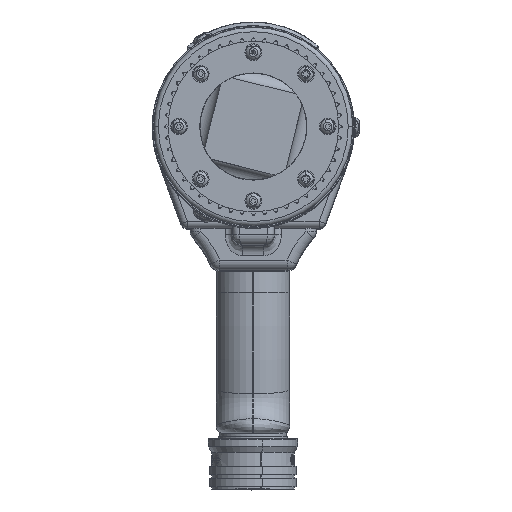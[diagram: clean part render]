
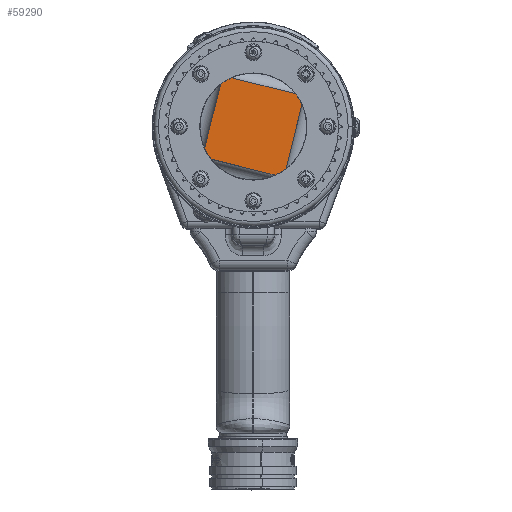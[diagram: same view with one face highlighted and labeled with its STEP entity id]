
A CAD part, top view. The second image highlights one B-rep face of the part: STEP entity #59290.
In plain terms, the highlighted planar face has unit normal (0, 0, 1).
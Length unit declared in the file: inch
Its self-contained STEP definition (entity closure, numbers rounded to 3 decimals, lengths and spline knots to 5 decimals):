
#808 = CARTESIAN_POINT ( 'NONE',  ( 0.72513, -0.18149, 2.89 ) ) ;
#3412 = VERTEX_POINT ( 'NONE', #88395 ) ;
#3620 = DIRECTION ( 'NONE',  ( 0., 0., -1. ) ) ;
#4511 = PLANE ( 'NONE',  #64877 ) ;
#4696 = CARTESIAN_POINT ( 'NONE',  ( 0.58278, -0.75024, 2.89 ) ) ;
#6022 = DIRECTION ( 'NONE',  ( -0.243, -0.97, 0. ) ) ;
#8869 = AXIS2_PLACEMENT_3D ( 'NONE', #45755, #3620, #52741 ) ;
#9750 = DIRECTION ( 'NONE',  ( 0.97, -0.243, 0. ) ) ;
#10610 = CIRCLE ( 'NONE', #42536, 0.95 ) ;
#11819 = CARTESIAN_POINT ( 'NONE',  ( 0.38726, -0.86748, 2.89 ) ) ;
#13309 = VECTOR ( 'NONE', #28782, 39.37008 ) ;
#15499 = LINE ( 'NONE', #808, #13309 ) ;
#16318 = EDGE_CURVE ( 'NONE', #17107, #51661, #52478, .T. ) ;
#16796 = CARTESIAN_POINT ( 'NONE',  ( -0.75024, -0.58278, 2.89 ) ) ;
#17107 = VERTEX_POINT ( 'NONE', #16796 ) ;
#18859 = CARTESIAN_POINT ( 'NONE',  ( 0., 0., 2.89 ) ) ;
#18938 = EDGE_CURVE ( 'NONE', #74873, #61169, #38465, .T. ) ;
#20394 = CIRCLE ( 'NONE', #88520, 0.95 ) ;
#25645 = FACE_OUTER_BOUND ( 'NONE', #60538, .T. ) ;
#25941 = DIRECTION ( 'NONE',  ( -0.243, -0.97, 0. ) ) ;
#28782 = DIRECTION ( 'NONE',  ( 0.243, 0.97, 0. ) ) ;
#30174 = EDGE_CURVE ( 'NONE', #74873, #70260, #20394, .T. ) ;
#31847 = CARTESIAN_POINT ( 'NONE',  ( -0.18149, -0.72513, 2.89 ) ) ;
#32015 = DIRECTION ( 'NONE',  ( -0.243, -0.97, 0. ) ) ;
#32396 = DIRECTION ( 'NONE',  ( -0.97, 0.243, 0. ) ) ;
#36161 = CARTESIAN_POINT ( 'NONE',  ( -0.38726, 0.86748, 2.89 ) ) ;
#38465 = LINE ( 'NONE', #60284, #44209 ) ;
#38597 = ORIENTED_EDGE ( 'NONE', *, *, #30174, .F. ) ;
#38749 = CARTESIAN_POINT ( 'NONE',  ( -0.58278, 0.75024, 2.89 ) ) ;
#39061 = VERTEX_POINT ( 'NONE', #38749 ) ;
#39841 = DIRECTION ( 'NONE',  ( 0., 0., -1. ) ) ;
#40525 = DIRECTION ( 'NONE',  ( 0., 0., -1. ) ) ;
#42536 = AXIS2_PLACEMENT_3D ( 'NONE', #18859, #67558, #25941 ) ;
#43567 = ORIENTED_EDGE ( 'NONE', *, *, #60248, .F. ) ;
#44209 = VECTOR ( 'NONE', #32396, 39.37008 ) ;
#44668 = ORIENTED_EDGE ( 'NONE', *, *, #16318, .T. ) ;
#45755 = CARTESIAN_POINT ( 'NONE',  ( 0., 0., 2.89 ) ) ;
#45893 = CARTESIAN_POINT ( 'NONE',  ( -0.72513, 0.18149, 2.89 ) ) ;
#46188 = CIRCLE ( 'NONE', #70033, 0.95 ) ;
#48050 = DIRECTION ( 'NONE',  ( 0., 0., -1. ) ) ;
#51184 = CARTESIAN_POINT ( 'NONE',  ( 0.86748, 0.38726, 2.89 ) ) ;
#51661 = VERTEX_POINT ( 'NONE', #11819 ) ;
#52478 = LINE ( 'NONE', #31847, #72978 ) ;
#52741 = DIRECTION ( 'NONE',  ( -0.243, -0.97, 0. ) ) ;
#59290 = ADVANCED_FACE ( 'NONE', ( #25645 ), #4511, .F. ) ;
#60017 = CIRCLE ( 'NONE', #8869, 0.95 ) ;
#60248 = EDGE_CURVE ( 'NONE', #17107, #3412, #46188, .T. ) ;
#60284 = CARTESIAN_POINT ( 'NONE',  ( 0.18149, 0.72513, 2.89 ) ) ;
#60538 = EDGE_LOOP ( 'NONE', ( #44668, #62002, #79497, #38597, #77380, #73478, #68121, #43567 ) ) ;
#61169 = VERTEX_POINT ( 'NONE', #36161 ) ;
#61881 = EDGE_CURVE ( 'NONE', #39061, #3412, #73569, .T. ) ;
#61976 = VERTEX_POINT ( 'NONE', #4696 ) ;
#62002 = ORIENTED_EDGE ( 'NONE', *, *, #87542, .F. ) ;
#64877 = AXIS2_PLACEMENT_3D ( 'NONE', #81199, #39841, #88066 ) ;
#66400 = CARTESIAN_POINT ( 'NONE',  ( 0.75024, 0.58278, 2.89 ) ) ;
#67558 = DIRECTION ( 'NONE',  ( 0., 0., -1. ) ) ;
#68121 = ORIENTED_EDGE ( 'NONE', *, *, #61881, .T. ) ;
#70033 = AXIS2_PLACEMENT_3D ( 'NONE', #89235, #48050, #6022 ) ;
#70260 = VERTEX_POINT ( 'NONE', #51184 ) ;
#72978 = VECTOR ( 'NONE', #9750, 39.37008 ) ;
#73478 = ORIENTED_EDGE ( 'NONE', *, *, #81312, .F. ) ;
#73569 = LINE ( 'NONE', #45893, #89728 ) ;
#74873 = VERTEX_POINT ( 'NONE', #66400 ) ;
#77380 = ORIENTED_EDGE ( 'NONE', *, *, #18938, .T. ) ;
#78179 = EDGE_CURVE ( 'NONE', #61976, #70260, #15499, .T. ) ;
#79497 = ORIENTED_EDGE ( 'NONE', *, *, #78179, .T. ) ;
#81199 = CARTESIAN_POINT ( 'NONE',  ( 0., 0., 2.89 ) ) ;
#81312 = EDGE_CURVE ( 'NONE', #39061, #61169, #60017, .T. ) ;
#81888 = CARTESIAN_POINT ( 'NONE',  ( 0., 0., 2.89 ) ) ;
#87542 = EDGE_CURVE ( 'NONE', #61976, #51661, #10610, .T. ) ;
#88066 = DIRECTION ( 'NONE',  ( -0.243, -0.97, 0. ) ) ;
#88395 = CARTESIAN_POINT ( 'NONE',  ( -0.86748, -0.38726, 2.89 ) ) ;
#88520 = AXIS2_PLACEMENT_3D ( 'NONE', #81888, #40525, #88754 ) ;
#88754 = DIRECTION ( 'NONE',  ( -0.243, -0.97, 0. ) ) ;
#89235 = CARTESIAN_POINT ( 'NONE',  ( 0., 0., 2.89 ) ) ;
#89728 = VECTOR ( 'NONE', #32015, 39.37008 ) ;
